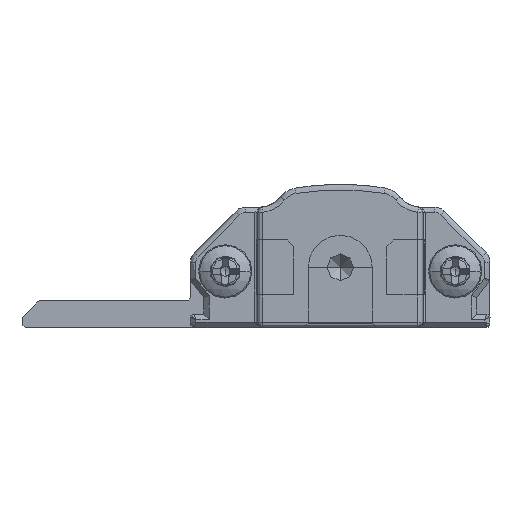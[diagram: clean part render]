
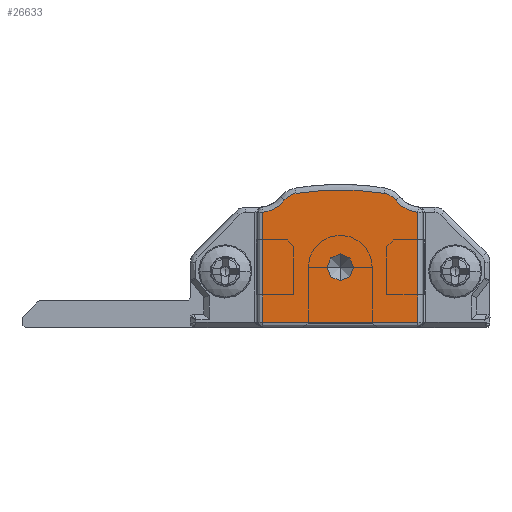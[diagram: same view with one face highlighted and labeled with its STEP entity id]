
A CAD part, front view. The second image highlights one B-rep face of the part: STEP entity #26633.
In plain terms, the highlighted planar face has unit normal (0, -1, 0).
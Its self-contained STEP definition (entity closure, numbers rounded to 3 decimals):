
#336 = VERTEX_POINT ( 'NONE', #27432 ) ;
#460 = ORIENTED_EDGE ( 'NONE', *, *, #3678, .T. ) ;
#1369 = DIRECTION ( 'NONE',  ( 0., 0., -1. ) ) ;
#1508 = AXIS2_PLACEMENT_3D ( 'NONE', #4854, #14064, #26026 ) ;
#1713 = VECTOR ( 'NONE', #16558, 1000. ) ;
#1825 = VERTEX_POINT ( 'NONE', #18824 ) ;
#1991 = LINE ( 'NONE', #11621, #1713 ) ;
#2478 = CIRCLE ( 'NONE', #20197, 2.4 ) ;
#3316 = LINE ( 'NONE', #22692, #10945 ) ;
#3678 = EDGE_CURVE ( 'NONE', #15471, #26796, #3316, .T. ) ;
#4156 = VECTOR ( 'NONE', #14787, 1000. ) ;
#4235 = DIRECTION ( 'NONE',  ( 0., -1., 0. ) ) ;
#4509 = CIRCLE ( 'NONE', #1508, 1.3 ) ;
#4611 = DIRECTION ( 'NONE',  ( 0., -1., 0. ) ) ;
#4686 = CARTESIAN_POINT ( 'NONE',  ( 5.4, -15., 8.612 ) ) ;
#4705 = DIRECTION ( 'NONE',  ( 0., 0., -1. ) ) ;
#4854 = CARTESIAN_POINT ( 'NONE',  ( 14.3, -15., 8.75 ) ) ;
#5169 = CARTESIAN_POINT ( 'NONE',  ( 15.332, -15., 9.541 ) ) ;
#5182 = DIRECTION ( 'NONE',  ( 0., 0., -1. ) ) ;
#5567 = AXIS2_PLACEMENT_3D ( 'NONE', #11306, #15931, #21018 ) ;
#5762 = CIRCLE ( 'NONE', #9807, 2.4 ) ;
#6210 = EDGE_CURVE ( 'NONE', #24828, #15471, #5762, .T. ) ;
#6264 = PLANE ( 'NONE',  #5567 ) ;
#7667 = EDGE_CURVE ( 'NONE', #1825, #336, #22900, .T. ) ;
#7690 = CARTESIAN_POINT ( 'NONE',  ( 17., -15., 0.4 ) ) ;
#7694 = DIRECTION ( 'NONE',  ( 0., 1., 0. ) ) ;
#8123 = EDGE_CURVE ( 'NONE', #336, #24828, #14280, .T. ) ;
#8756 = VERTEX_POINT ( 'NONE', #7690 ) ;
#9546 = ORIENTED_EDGE ( 'NONE', *, *, #24929, .F. ) ;
#9807 = AXIS2_PLACEMENT_3D ( 'NONE', #10568, #7694, #5182 ) ;
#10568 = CARTESIAN_POINT ( 'NONE',  ( 5.162, -15., 11. ) ) ;
#10945 = VECTOR ( 'NONE', #15524, 1000. ) ;
#11306 = CARTESIAN_POINT ( 'NONE',  ( 22.15, -15., 3.606 ) ) ;
#11621 = CARTESIAN_POINT ( 'NONE',  ( 17., -15., 0.4 ) ) ;
#11916 = ORIENTED_EDGE ( 'NONE', *, *, #6210, .T. ) ;
#11989 = CIRCLE ( 'NONE', #29789, 1. ) ;
#12521 = EDGE_CURVE ( 'NONE', #8756, #26445, #15100, .T. ) ;
#12713 = CARTESIAN_POINT ( 'NONE',  ( 11.2, -15., 3.5 ) ) ;
#12724 = VERTEX_POINT ( 'NONE', #21118 ) ;
#13169 = AXIS2_PLACEMENT_3D ( 'NONE', #13919, #4235, #4705 ) ;
#13346 = EDGE_CURVE ( 'NONE', #26796, #8756, #1991, .T. ) ;
#13720 = DIRECTION ( 'NONE',  ( 0., 1., 0. ) ) ;
#13804 = ORIENTED_EDGE ( 'NONE', *, *, #13346, .T. ) ;
#13919 = CARTESIAN_POINT ( 'NONE',  ( 11.2, -15., 4.5 ) ) ;
#14064 = DIRECTION ( 'NONE',  ( 0., -1., 0. ) ) ;
#14280 = CIRCLE ( 'NONE', #22940, 1.3 ) ;
#14787 = DIRECTION ( 'NONE',  ( 0., 0., 1. ) ) ;
#15050 = DIRECTION ( 'NONE',  ( 0., -1., 0. ) ) ;
#15100 = LINE ( 'NONE', #29751, #4156 ) ;
#15471 = VERTEX_POINT ( 'NONE', #4686 ) ;
#15524 = DIRECTION ( 'NONE',  ( 0., 0., -1. ) ) ;
#15931 = DIRECTION ( 'NONE',  ( 0., -1., 0. ) ) ;
#16558 = DIRECTION ( 'NONE',  ( 1., 0., 0. ) ) ;
#16980 = CARTESIAN_POINT ( 'NONE',  ( 7.068, -15., 9.541 ) ) ;
#17818 = DIRECTION ( 'NONE',  ( 0., 0., -1. ) ) ;
#17838 = VERTEX_POINT ( 'NONE', #5169 ) ;
#18025 = VERTEX_POINT ( 'NONE', #12713 ) ;
#18120 = ORIENTED_EDGE ( 'NONE', *, *, #8123, .T. ) ;
#18824 = CARTESIAN_POINT ( 'NONE',  ( 14.508, -15., 10.034 ) ) ;
#19600 = CARTESIAN_POINT ( 'NONE',  ( 8.1, -15., 8.75 ) ) ;
#20197 = AXIS2_PLACEMENT_3D ( 'NONE', #23105, #13720, #1369 ) ;
#20600 = ORIENTED_EDGE ( 'NONE', *, *, #7667, .T. ) ;
#20862 = EDGE_LOOP ( 'NONE', ( #9546, #24989 ) ) ;
#21018 = DIRECTION ( 'NONE',  ( 0., 0., -1. ) ) ;
#21118 = CARTESIAN_POINT ( 'NONE',  ( 11.2, -15., 5.5 ) ) ;
#22540 = CARTESIAN_POINT ( 'NONE',  ( 11.2, -15., -10.376 ) ) ;
#22692 = CARTESIAN_POINT ( 'NONE',  ( 5.4, -15., 0.4 ) ) ;
#22900 = CIRCLE ( 'NONE', #27453, 20.676 ) ;
#22940 = AXIS2_PLACEMENT_3D ( 'NONE', #19600, #29929, #17818 ) ;
#23105 = CARTESIAN_POINT ( 'NONE',  ( 17.238, -15., 11. ) ) ;
#24497 = DIRECTION ( 'NONE',  ( 0., 0., -1. ) ) ;
#24828 = VERTEX_POINT ( 'NONE', #16980 ) ;
#24929 = EDGE_CURVE ( 'NONE', #18025, #12724, #11989, .T. ) ;
#24989 = ORIENTED_EDGE ( 'NONE', *, *, #30290, .F. ) ;
#25849 = EDGE_CURVE ( 'NONE', #26445, #17838, #2478, .T. ) ;
#26026 = DIRECTION ( 'NONE',  ( 0., 0., -1. ) ) ;
#26259 = ORIENTED_EDGE ( 'NONE', *, *, #30239, .T. ) ;
#26445 = VERTEX_POINT ( 'NONE', #29008 ) ;
#26633 = ADVANCED_FACE ( 'NONE', ( #30114, #30422 ), #6264, .T. ) ;
#26796 = VERTEX_POINT ( 'NONE', #29451 ) ;
#26875 = CARTESIAN_POINT ( 'NONE',  ( 11.2, -15., 4.5 ) ) ;
#27432 = CARTESIAN_POINT ( 'NONE',  ( 7.892, -15., 10.034 ) ) ;
#27453 = AXIS2_PLACEMENT_3D ( 'NONE', #22540, #15050, #29853 ) ;
#27745 = ORIENTED_EDGE ( 'NONE', *, *, #12521, .T. ) ;
#28715 = EDGE_LOOP ( 'NONE', ( #27745, #29999, #26259, #20600, #18120, #11916, #460, #13804 ) ) ;
#29008 = CARTESIAN_POINT ( 'NONE',  ( 17., -15., 8.612 ) ) ;
#29383 = CIRCLE ( 'NONE', #13169, 1. ) ;
#29451 = CARTESIAN_POINT ( 'NONE',  ( 5.4, -15., 0.4 ) ) ;
#29751 = CARTESIAN_POINT ( 'NONE',  ( 17., -15., 8.612 ) ) ;
#29789 = AXIS2_PLACEMENT_3D ( 'NONE', #26875, #4611, #24497 ) ;
#29853 = DIRECTION ( 'NONE',  ( 0., 0., -1. ) ) ;
#29929 = DIRECTION ( 'NONE',  ( 0., -1., 0. ) ) ;
#29999 = ORIENTED_EDGE ( 'NONE', *, *, #25849, .T. ) ;
#30114 = FACE_OUTER_BOUND ( 'NONE', #28715, .T. ) ;
#30239 = EDGE_CURVE ( 'NONE', #17838, #1825, #4509, .T. ) ;
#30290 = EDGE_CURVE ( 'NONE', #12724, #18025, #29383, .T. ) ;
#30422 = FACE_BOUND ( 'NONE', #20862, .T. ) ;
